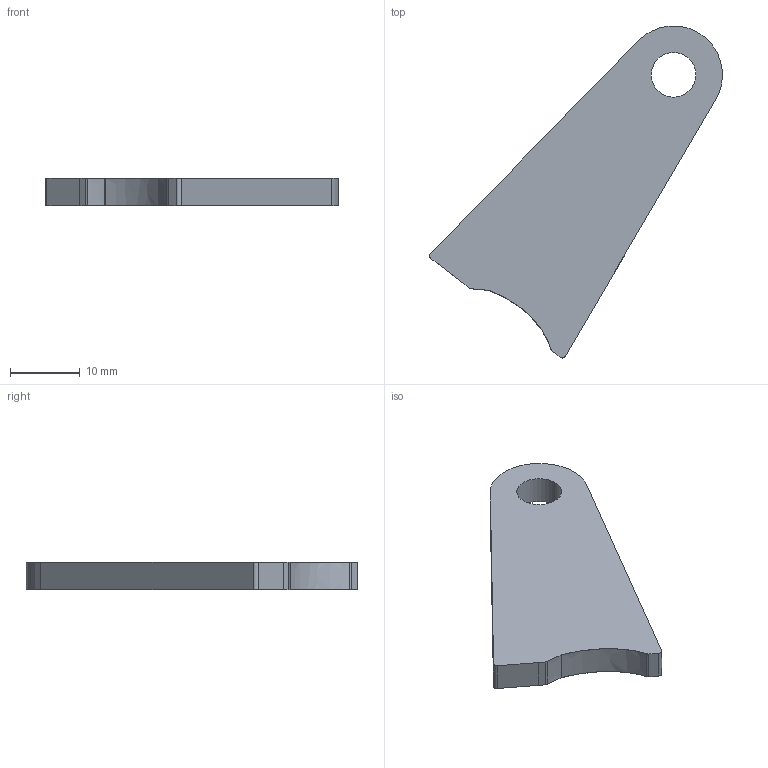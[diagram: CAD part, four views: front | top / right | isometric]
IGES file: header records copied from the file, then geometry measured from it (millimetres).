
Start section: START RECORD GO HERE.
Global section: file name: 20M_RU_RD.igs; native system: IBM CATIA IGES - CATIA Version 5 Release 19 ; preprocessor: CATIA Version 5 Release 19 ; author: alexb; organization: LAPTOP-PR6NE7IP; date: 20191216.215850; units: millimetre
Bounding box: 41.94 x 47.54 x 4 mm (x, y, z)
Surface area: 2268.1 mm2 (no closed solid volume)
Topology: 0 solids, 0 shells, 17 faces, 90 edges, 92 vertices
Faces by surface type: revolution 8, plane 7, extrusion 2
